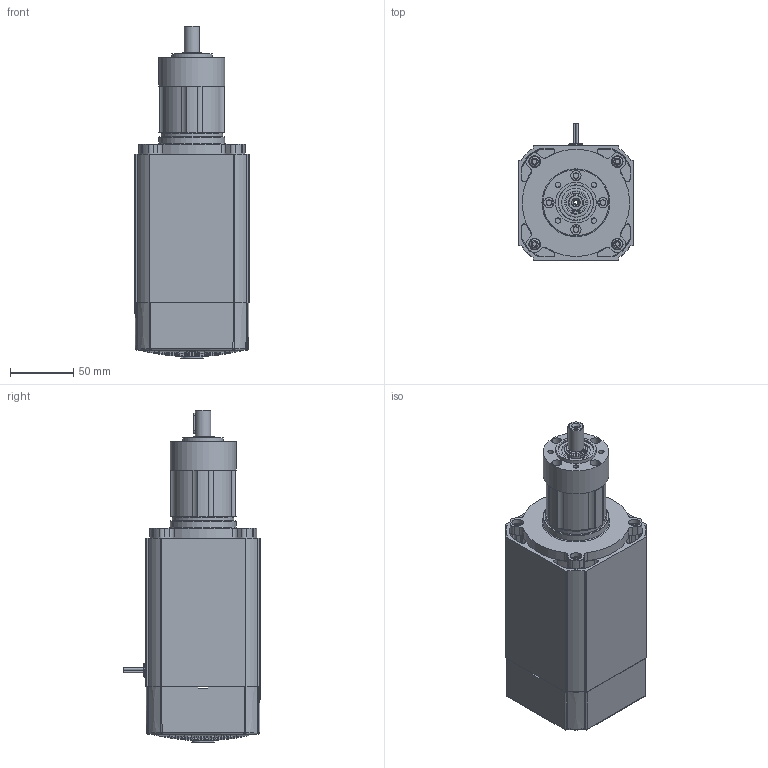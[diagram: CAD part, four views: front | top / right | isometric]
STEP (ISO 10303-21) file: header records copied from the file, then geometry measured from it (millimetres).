
FILE_DESCRIPTION (( 'STEP AP214' ), '1' );
FILE_NAME ('AC8040FC-PL5200iP_2S.STEP', '2014-05-06T13:26:46', ( '' ), ( '' ), 'SwSTEP 2.0', 'SolidWorks 2014', '' );
FILE_SCHEMA (( 'AUTOMOTIVE_DESIGN' ));
Length unit declared in the file: inch
Products named in the file (1): AC8040FC-PL5200iP_2S
Bounding box: 90.35 x 107.71 x 261.69 mm (x, y, z)
Surface area: 156545 mm2 (no closed solid volume)
Topology: 0 solids, 55 shells, 864 faces, 3689 edges, 2818 vertices
Faces by surface type: plane 567, cylinder 238, bspline 31, cone 14, torus 13, sphere 1
Full cylindrical faces by diameter (mm): 1.5 x2, 1.905 x4, 3.3 x1, 4.166 x4, 4.2 x4, 4.3 x1, 8 x4, 8.077 x1, 9.144 x4, 11.112 x1, 12 x1, 17.216 x1, 18 x1, 22.784 x1, 28 x1, 32 x1, 48.743 x1, 52 x1, 52.07 x1, 52.387 x1, 81.28 x1
Entity records: 53492 total; most frequent: CARTESIAN_POINT 12444, DIRECTION 6493, ORIENTED_EDGE 5263, EDGE_CURVE 3610, VERTEX_POINT 2809, AXIS2_PLACEMENT_3D 2415, LINE 1663, VECTOR 1663
